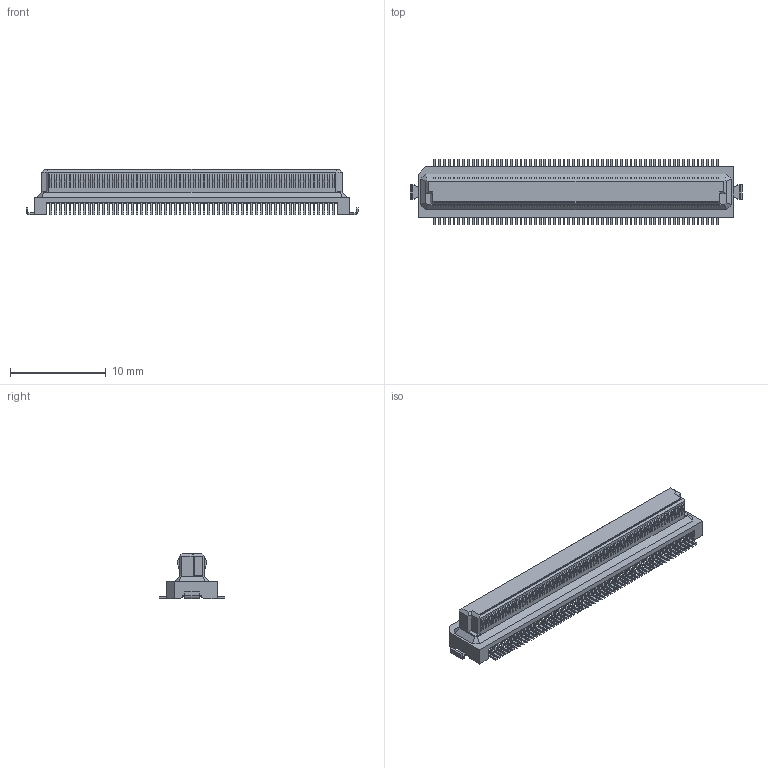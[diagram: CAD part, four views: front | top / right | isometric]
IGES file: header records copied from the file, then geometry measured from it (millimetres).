
Start section: Elysium IGES Interface
Global section: file name: 115HG:\その他\DY関連\CAD\依頼書（ウェブ）_HP用データ\60-36-0120_DY1X-S-2_S-3_S-4_S-5\DY10-120S-2\P39559_DY10-120S-2.igs; native system: Creo Elements/Direct Modeling 20.4A  18-Oct-2021; preprocessor: Creo Element/Direct IGES_3D V2.2; author: Unknown; organization: Unknown; date: 20220224.192405; units: millimetre
Bounding box: 34.7 x 6.8 x 4.73 mm (x, y, z)
Volume: 372.4 mm3; surface area: 869 mm2
Topology: 1 solids, 1 shells, 1804 faces, 4651 edges, 3090 vertices
Faces by surface type: bspline 1804
